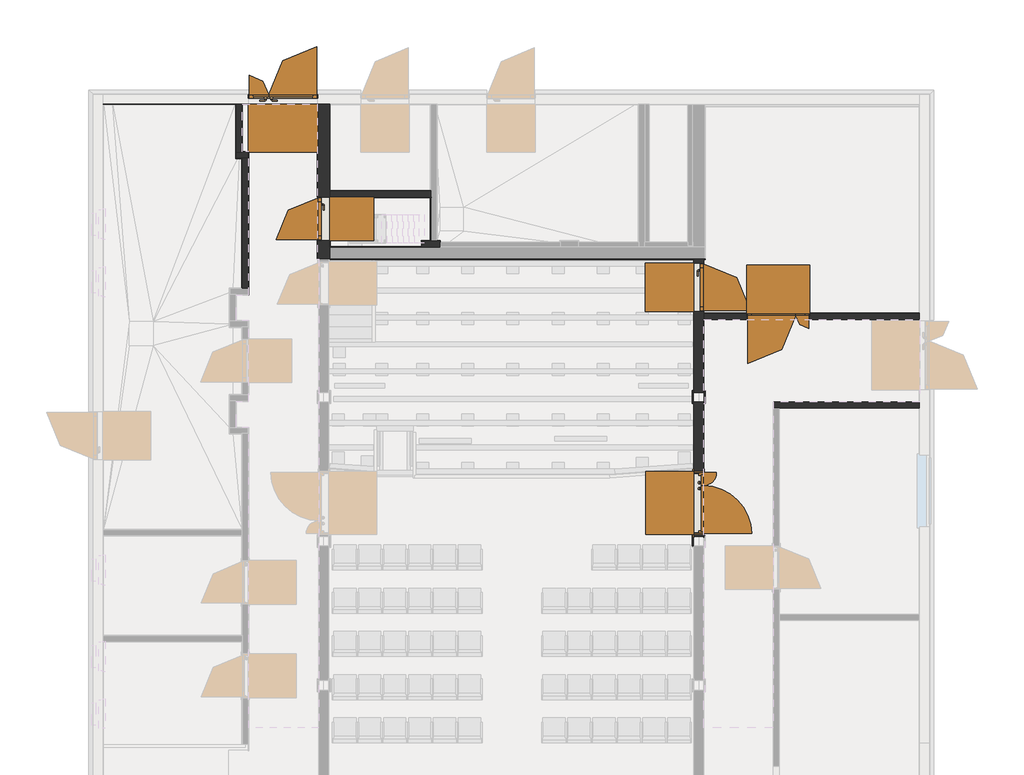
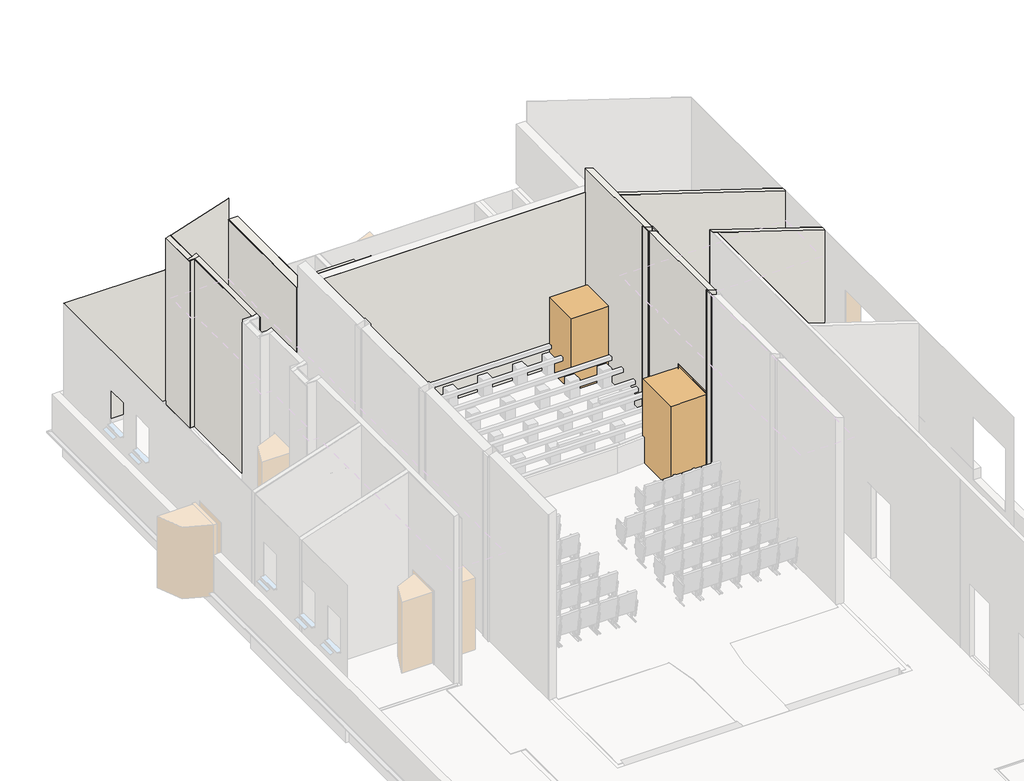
# One storey, part 8 of 12: 57 walls, 5 doors.
"""IFC4 building model written with IfcOpenShell, lengths in millimetres."""

from ifc_helpers import new_model, si_unit, frame, origin, origin_with_axes, place, context, project, spatial, polyline, outline, extrude, faceted_brep, transform, mapped, element, save
from components import door_54bb3564, door_66c45f72, door_7db46ef5, door_10c92136, door_b498f91c

model = new_model("IFC4")

# Units and contexts
model_context = context("Model", 3, world=origin())
ifc_project = project(units=[si_unit("LENGTHUNIT", "METRE", prefix="MILLI")], contexts=[model_context])

# Site, building, storey
site = spatial("IfcSite", under=ifc_project)
building = spatial("IfcBuilding", under=site)
storey = spatial("IfcBuildingStorey", under=building, Name="Этаж 01", Elevation=0.0)

# Doors
placement = place(None, origin())
door_shape = door_54bb3564(model_context)
element("IfcDoor", 1, ObjectType="Дверь_Стальная_Наружная_Двупольная_ГОСТ_31173-2016 : 1410 х 2070(h)_Л_Обычная_с Порогом", at=placement, inside=storey, context=model_context, shape_type="MappedRepresentation", body=[
    mapped(door_shape, transform((3649.9972865, 27200.0, 0.0), x_axis=(1.0, 0.0, 0.0), y_axis=(0.0, 1.0, 0.0), z_axis=(0.0, 0.0, 1.0))),
])
door_2_shape = door_66c45f72(model_context)
element("IfcDoor", 2, ObjectType="Дверь_Противопожарная_Металлическая_Однопольная_Глухая : 1000 х 2100(h)_Л_EI30", at=placement, inside=storey, context=model_context, shape_type="MappedRepresentation", body=[
    mapped(door_2_shape, transform((12300.0, 23290.0, 0.0), x_axis=(0.0, -1.0, 0.0), y_axis=(1.0, 0.0, 0.0), z_axis=(0.0, 0.0, 1.0))),
])
door_3_shape = door_7db46ef5(model_context)
element("IfcDoor", 3, ObjectType="Дверь_Противопожарная_Металлическая_Однопольная_Глухая : 910 х 2100(h)_Пр_EI30", at=placement, inside=storey, context=model_context, shape_type="MappedRepresentation", body=[
    mapped(door_3_shape, transform((4500.0, 24710.0, 0.0), x_axis=(0.0, 1.0, 0.0), y_axis=(-1.0, 0.0, 0.0), z_axis=(0.0, 0.0, 1.0))),
])
door_4_shape = door_10c92136(model_context)
element("IfcDoor", 4, ObjectType="Дверь_Противопожарная_Внутренняя_Двупольная_с_Порогом : 1310 х 2070(h)_Л_EI30", at=placement, inside=storey, context=model_context, shape_type="MappedRepresentation", body=[
    mapped(door_4_shape, transform((13955.0030762, 22682.5, 0.0), x_axis=(-1.0, 0.0, 0.0), y_axis=(0.0, -1.0, 0.0), z_axis=(0.0, 0.0, 1.0))),
])
door_5_shape = door_b498f91c(model_context)
element("IfcDoor", 5, ObjectType="Дверь_Деревянная_Внутренняя_Двупольная_ГОСТ_475-2016 : 1310 х 2370(h)_Л_с Порогом", at=placement, inside=storey, context=model_context, shape_type="MappedRepresentation", body=[
    mapped(door_5_shape, transform((12694.0, 18782.3933893, 0.0), x_axis=(0.0, 1.0, 0.0), y_axis=(-1.0, 0.0, 0.0), z_axis=(0.0, 0.0, 1.0))),
])

# Walls
element("IfcWall", 6, ObjectType="ADSK_Внутренняя_Кирпич_250", at=placement, inside=storey, context=model_context, shape_type="Brep", body=[
    faceted_brep([(4375.0, 26955.0, -1050.0), (4375.0, 23875.0, -1050.0), (4375.0, 23875.0, -627.0), (4375.0, 23875.0, -20.0), (4375.0, 23875.0, 0.0), (4375.0, 23875.0, 4695.0), (4375.0, 27099.0, 4695.0), (4375.0, 27100.0, 4695.0), (4375.0, 27100.0, 100.0), (4375.0, 27085.0, 100.0), (4375.0, 27085.0, -20.0), (4375.0, 27085.0, -25.0), (4375.0, 26955.0, -25.0), (4375.0, 26955.0, -627.0), (4375.0, 25165.0, 2100.0), (4375.0, 24255.0, 2100.0), (4375.0, 24255.0, 0.0), (4375.0, 25165.0, 0.0), (4625.0, 23875.0, -1050.0), (4625.0, 24125.0, -1050.0), (4625.0, 26955.0, -1050.0), (4625.0, 26955.0, -540.0), (4625.0, 26955.0, -25.0), (4625.0, 27085.0, -25.0), (4625.0, 27085.0, 0.0), (4625.0, 27085.0, 100.0), (4625.0, 27100.0, 100.0), (4625.0, 27100.0, 2840.0), (4625.0, 25284.648381, 2840.0), (4625.0, 25164.648381, 2840.0), (4625.0, 25164.648381, 3000.0), (4625.0, 25284.648381, 3000.0), (4625.0, 25294.648381, 3000.0), (4625.0, 27100.0, 3000.0), (4625.0, 27100.0, 4695.0), (4625.0, 24135.0, 4695.0), (4625.0, 24125.0, 4695.0), (4625.0, 23875.0, 4695.0), (4625.0, 24255.0, 2100.0), (4625.0, 25165.0, 2100.0), (4625.0, 25165.0, 0.0), (4625.0, 25164.648381, 0.0), (4625.0, 24255.0, 0.0), (4500.0, 27100.0, 2840.0), (4500.0, 25164.648381, 2840.0), (4500.0, 25164.648381, 3000.0), (4500.0, 27100.0, 3000.0), (4500.0, 26955.0, -25.0), (4500.0, 27085.0, -25.0)], [[[0, 1, 2, 3, 4, 5, 6, 7, 8, 9, 10, 11, 12, 13], [14, 15, 16, 17]], [[18, 19, 20, 21, 22, 23, 24, 25, 26, 27, 28, 29, 30, 31, 32, 33, 34, 35, 36, 37], [38, 39, 40, 41, 42]], [[1, 0, 20, 19, 18]], [[7, 6, 5, 37, 36, 35, 34]], [[14, 39, 38, 15]], [[16, 42, 41, 40, 17]], [[42, 16, 15, 38]], [[17, 40, 39, 14]], [[43, 44, 29, 28, 27]], [[45, 46, 33, 32, 31, 30]], [[44, 43, 46, 45]], [[44, 45, 30, 29]], [[23, 22, 47, 12, 11, 48]], [[0, 13, 12, 47, 22, 21, 20]], [[26, 25, 9, 8]], [[23, 48, 11, 10, 9, 25, 24]], [[7, 34, 33, 46, 43, 27, 26, 8]], [[37, 5, 4, 3, 2, 1, 18]]]),
])
element("IfcWall", 7, ObjectType="ADSK_Внутренняя_Кирпич_120", at=placement, inside=storey, context=model_context, shape_type="Brep", body=[
    faceted_brep([(2925.2572865, 23259.9176524, -25.0), (2925.2572865, 25979.9955786, -25.0), (2925.2572865, 25979.9955786, -20.0), (2925.2572865, 25979.9955786, 4831.1056928), (2925.2572865, 23259.9176524, 4831.1056928), (2925.2572865, 23259.9176524, -20.0), (2805.2572865, 23259.9176524, -25.0), (2805.2572865, 23259.9176524, -20.0), (2805.2572865, 23259.9176524, 4792.1143962), (2805.2572865, 25979.9955786, 4792.1143962), (2805.2572865, 25979.9955786, -20.0), (2805.2572865, 25979.9955786, -25.0), (2865.2572865, 23259.9176524, -25.0), (2865.2572865, 25979.9955786, -25.0)], [[[0, 1, 2, 3, 4, 5]], [[6, 7, 8, 9, 10, 11]], [[1, 0, 12, 6, 11, 13]], [[0, 5, 4, 8, 7, 6, 12]], [[3, 2, 1, 13, 11, 10, 9]], [[4, 3, 9, 8]]]),
])
element("IfcWall", 8, ObjectType="ADSK_Внутренняя_Кирпич_120", at=placement, inside=storey, context=model_context, shape_type="Brep", body=[
    faceted_brep([(2675.2572865, 27085.0, -25.0), (2675.2572865, 26955.0, -25.0), (2675.2572865, 26099.9955786, -25.0), (2675.2572865, 26099.9955786, -20.7585152), (2675.2572865, 26099.9955786, 4749.8738249), (2675.2572865, 27100.0, 4749.8738249), (2675.2572865, 27100.0, 100.0), (2675.2572865, 27085.0, 100.0), (2675.2572865, 27085.0, -20.3036368), (2795.2572865, 27085.0, 100.0), (2795.2572865, 27100.0, 100.0), (2795.2572865, 27100.0, 4788.8651214), (2795.2572865, 26099.9955786, 4788.8651214), (2795.2572865, 26099.9955786, -20.0), (2795.2572865, 27085.0, -20.0), (2735.2572865, 27085.0, -25.0), (2735.2572865, 26955.0, -25.0), (2735.2572865, 26099.9955786, -25.0), (2735.2572865, 26099.9955786, -20.0), (2735.2572865, 27085.0, -20.0)], [[[0, 1, 2, 3, 4, 5, 6, 7, 8]], [[9, 10, 11, 12, 13, 14]], [[2, 1, 0, 15, 16, 17]], [[4, 3, 2, 17, 18, 13, 12]], [[10, 9, 7, 6]], [[0, 8, 7, 9, 14, 19, 15]], [[5, 4, 12, 11]], [[10, 6, 5, 11]], [[14, 13, 18, 19]], [[19, 18, 17, 16, 15]]]),
])
element("IfcWall", 9, ObjectType="ADSK_Внутренняя_Кирпич_120", at=placement, inside=storey, context=model_context, shape_type="Brep", body=[
    faceted_brep([(2675.2572865, 26099.9955786, 4749.8738249), (2795.2572865, 26099.9955786, 4788.8651214), (2925.2572865, 26099.9955786, 4831.1056928), (2925.2572865, 26099.9955786, -20.0), (2795.2572865, 26099.9955786, -20.0), (2735.2572865, 26099.9955786, -20.0), (2735.2572865, 26099.9955786, -25.0), (2675.2572865, 26099.9955786, -25.0), (2925.2572865, 25979.9955786, 4831.1056928), (2805.2572865, 25979.9955786, 4792.1143962), (2675.2572865, 25979.9955786, 4749.8738249), (2675.2572865, 25979.9955786, -25.0), (2805.2572865, 25979.9955786, -25.0), (2865.2572865, 25979.9955786, -25.0), (2865.2572865, 25979.9955786, -20.0), (2925.2572865, 25979.9955786, -20.0), (2735.2572865, 26039.9955786, -25.0), (2865.2572865, 26039.9955786, -25.0), (2865.2572865, 26039.9955786, -20.0), (2735.2572865, 26039.9955786, -20.0)], [[[0, 1, 2, 3, 4, 5, 6, 7]], [[8, 9, 10, 11, 12, 13, 14, 15]], [[11, 7, 6, 16, 17, 13, 12]], [[2, 8, 15, 3]], [[2, 1, 0, 10, 9, 8]], [[18, 19, 5, 4, 3, 15, 14]], [[18, 14, 13, 17]], [[19, 18, 17, 16]], [[5, 19, 16, 6]], [[7, 11, 10, 0]]]),
])
element("IfcWall", 10, ObjectType="Перегородка-КНАУФ-С362-Применение внутри здания-125/75@600 ГВЛ(ГВЛВ)  12,5", at=placement, inside=storey, context=model_context, shape_type="Brep", body=[
    faceted_brep([(16885.0, 22745.0, -20.0), (12405.0, 22745.0, -20.0), (12405.0, 22745.0, 5308.6654765), (12406.0, 22745.0, 5308.340549), (16900.0, 22745.0, 3848.1164919), (16900.0, 22745.0, 100.0), (16885.0, 22745.0, 100.0), (14610.0030762, 22745.0, 2070.0), (13300.0030762, 22745.0, 2070.0), (13300.0030762, 22745.0, 0.0), (14610.0030762, 22745.0, 0.0), (12405.0, 22620.0, -20.0), (16885.0, 22620.0, -20.0), (16885.0, 22620.0, 100.0), (16900.0, 22620.0, 100.0), (16900.0, 22620.0, 3848.1164919), (12405.0, 22620.0, 5308.6654765), (12405.0, 22620.0, 0.0), (13300.0030762, 22620.0, 2070.0), (14610.0030762, 22620.0, 2070.0), (14610.0030762, 22620.0, 0.0), (13300.0030762, 22620.0, 0.0)], [[[0, 1, 2, 3, 4, 5, 6], [7, 8, 9, 10]], [[11, 12, 13, 14, 15, 16, 17], [18, 19, 20, 21]], [[1, 0, 12, 11]], [[7, 19, 18, 8]], [[20, 10, 9, 21]], [[10, 20, 19, 7]], [[21, 9, 8, 18]], [[12, 0, 6, 13]], [[4, 3, 2, 16, 15]], [[2, 1, 11, 17, 16]], [[4, 15, 14, 5]], [[14, 13, 6, 5]]]),
])
element("IfcWall", 11, ObjectType="Перегородка-КНАУФ-С362-Применение внутри здания-125/75@600 ГВЛ(ГВЛВ)  12,5", at=placement, inside=storey, context=model_context, shape_type="Brep", body=[
    faceted_brep([(16885.0, 20900.5, -20.0), (13855.0, 20900.5, -20.0), (13855.0, 20900.5, 4837.5206427), (16900.0, 20900.5, 3848.1164919), (16900.0, 20900.5, 100.0), (16885.0, 20900.5, 100.0), (13855.0, 20775.5, 4837.5206427), (13855.0, 20775.5, -20.0), (13917.5, 20775.5, -20.0), (13917.5, 20775.5, -3.0), (13980.0, 20775.5, -3.0), (16885.0, 20775.5, -3.0), (16885.0, 20775.5, 100.0), (16899.0, 20775.5, 100.0), (16900.0, 20775.5, 100.0), (16900.0, 20775.5, 3848.1164919), (13980.0, 20775.5, 4796.9047088), (16885.0, 20838.0, -20.0), (13917.5, 20838.0, -20.0), (16885.0, 20838.0, -3.0), (13917.5, 20838.0, -3.0)], [[[0, 1, 2, 3, 4, 5]], [[6, 7, 8, 9, 10, 11, 12, 13, 14, 15, 16]], [[1, 0, 17, 18, 8, 7]], [[2, 1, 7, 6]], [[0, 5, 12, 11, 19, 17]], [[3, 2, 6, 16, 15]], [[20, 19, 11, 10, 9]], [[20, 9, 8, 18]], [[19, 20, 18, 17]], [[3, 15, 14, 4]], [[14, 13, 12, 5, 4]]]),
])
element("IfcWall", 12, ObjectType="Перегородка-КНАУФ-С365-Применение внутри здания-200/75@600 ГВЛ(ГВЛВ)  12,5", at=placement, inside=storey, context=model_context, shape_type="Brep", body=[
    faceted_brep([(12195.0, 23875.0, -20.0), (12195.0, 21100.0, -20.0), (12195.0, 21100.0, 5376.9002455), (12195.0, 21133.5, 5376.9002455), (12195.0, 23874.0, 5376.9002455), (12195.0, 23875.0, 5376.9002455), (12195.0, 23875.0, 4695.0), (12195.0, 23875.0, 0.0), (12195.0, 23795.0, 2100.0), (12195.0, 22785.0, 2100.0), (12195.0, 22785.0, 0.0), (12195.0, 23795.0, 0.0), (12405.0, 21100.0, -20.0), (12405.0, 22620.0, -20.0), (12405.0, 22745.0, -20.0), (12405.0, 23875.0, -20.0), (12405.0, 23875.0, 5308.6654765), (12405.0, 23865.0, 5308.6654765), (12405.0, 22745.0, 5308.6654765), (12405.0, 22620.0, 5308.6654765), (12405.0, 21100.0, 5308.6654765), (12405.0, 22785.0, 2100.0), (12405.0, 23795.0, 2100.0), (12405.0, 23795.0, 0.0), (12405.0, 22785.0, 0.0)], [[[0, 1, 2, 3, 4, 5, 6, 7], [8, 9, 10, 11]], [[12, 13, 14, 15, 16, 17, 18, 19, 20], [21, 22, 23, 24]], [[1, 0, 15, 14, 13, 12]], [[2, 1, 12, 20]], [[0, 7, 6, 5, 16, 15]], [[21, 9, 8, 22]], [[23, 11, 10, 24]], [[22, 8, 11, 23]], [[9, 21, 24, 10]], [[5, 4, 3, 2, 20, 19, 18, 17, 16]]]),
])
element("IfcWall", 13, ObjectType="ADSK_Внутренняя_Кирпич_120", at=placement, inside=storey, context=model_context, shape_type="Brep", body=[
    faceted_brep([(4625.0, 25164.648381, -25.0), (6724.9988121, 25164.648381, -25.0), (6724.9988121, 25164.648381, 0.0), (6724.9988121, 25164.648381, 2840.0), (6724.9988121, 25164.648381, 3000.0), (6724.9988121, 25164.648381, 3825.0), (4625.0, 25164.648381, 3825.0), (4625.0, 25164.648381, 3000.0), (4625.0, 25164.648381, 2840.0), (4625.0, 25164.648381, 0.0), (4625.0, 25284.648381, -25.0), (4625.0, 25284.648381, 0.0), (4625.0, 25284.648381, 2840.0), (4625.0, 25284.648381, 3000.0), (4625.0, 25284.648381, 3825.0), (6724.9988121, 25284.648381, 3825.0), (6724.9988121, 25284.648381, 3000.0), (6724.9988121, 25284.648381, 2840.0), (6724.9988121, 25284.648381, 0.0), (6724.9988121, 25284.648381, -25.0)], [[[0, 1, 2, 3, 4, 5, 6, 7, 8, 9]], [[10, 11, 12, 13, 14, 15, 16, 17, 18, 19]], [[1, 0, 10, 19]], [[6, 5, 15, 14]], [[0, 9, 8, 7, 6, 14, 13, 12, 11, 10]], [[5, 4, 3, 2, 1, 19, 18, 17, 16, 15]]]),
])
element("IfcWall", 14, ObjectType="ADSK_Внутренняя_Кирпич_120", at=placement, inside=storey, context=model_context, shape_type="Brep", body=[
    faceted_brep([(6534.9369238, 24125.0, -25.0), (6914.9369238, 24125.0, -25.0), (6914.9369238, 24125.0, 2840.0), (6534.9369238, 24125.0, 2840.0), (6534.9369238, 24245.0, -25.0), (6534.9369238, 24245.0, 2840.0), (6715.0630762, 24245.0, 2840.0), (6724.9988121, 24245.0, 2840.0), (6844.9988121, 24245.0, 2840.0), (6854.9988121, 24245.0, 2840.0), (6914.9369238, 24245.0, 2840.0), (6914.9369238, 24245.0, -25.0), (6844.9988121, 24245.0, -25.0), (6724.9988121, 24245.0, -25.0)], [[[0, 1, 2, 3]], [[4, 5, 6, 7, 8, 9, 10, 11, 12, 13]], [[1, 0, 4, 13, 12, 11]], [[2, 1, 11, 10]], [[3, 2, 10, 9, 8, 7, 6, 5]], [[0, 3, 5, 4]]]),
])
element("IfcWall", 15, ObjectType="Перегородка-КНАУФ-С365-Применение внутри здания-200/75@600 ГВЛ(ГВЛВ)  12,5", at=placement, inside=storey, context=model_context, shape_type="Brep", body=[
    faceted_brep([(12195.0, 20900.0, -20.0), (12195.0, 18100.0, -20.0), (12195.0, 18100.0, 5376.9002455), (12195.0, 18132.0, 5376.9002455), (12195.0, 20867.5, 5376.9002455), (12195.0, 20900.0, 5376.9002455), (12195.0, 19447.3933893, 0.0), (12195.0, 19447.3933893, 2370.0), (12195.0, 18137.3933893, 2370.0), (12195.0, 18137.3933893, 0.0), (12405.0, 18100.0, -20.0), (12405.0, 20900.0, -20.0), (12405.0, 20900.0, 5308.6654765), (12405.0, 20866.5, 5308.6654765), (12405.0, 18132.0, 5308.6654765), (12405.0, 18100.0, 5308.6654765), (12405.0, 19447.3933893, 2370.0), (12405.0, 19447.3933893, 0.0), (12405.0, 18137.3933893, 0.0), (12405.0, 18137.3933893, 2370.0)], [[[0, 1, 2, 3, 4, 5], [6, 7, 8, 9]], [[10, 11, 12, 13, 14, 15], [16, 17, 18, 19]], [[1, 0, 11, 10]], [[2, 1, 10, 15]], [[0, 5, 12, 11]], [[6, 17, 16, 7]], [[7, 16, 19, 8]], [[8, 19, 18, 9]], [[17, 6, 9, 18]], [[5, 4, 3, 2, 15, 14, 13, 12]]]),
])
element("IfcWall", 16, ObjectType="Отделка - Заводское покрытие сэндвич-панелей", at=placement, inside=storey, context=model_context, shape_type="Brep", body=[
    faceted_brep([(2675.2572865, 27100.0, 100.0), (-99.0, 27100.0, 100.0), (-99.0, 27100.0, 3848.4414193), (-99.0, 27100.0, 3850.0), (2675.2572865, 27100.0, 3850.0), (2675.2572865, 27099.0, 100.0), (2675.2572865, 27099.0, 3850.0), (-99.0, 27099.0, 3850.0), (-99.0, 27099.0, 100.0)], [[[0, 1, 2, 3, 4]], [[5, 6, 7, 8]], [[1, 0, 5, 8]], [[4, 3, 7, 6]], [[3, 2, 1, 8, 7]], [[0, 4, 6, 5]]]),
])
element("IfcWall", 17, ObjectType="Отделка - Акриловая покраска_1 мм_Улучш. штук. по кирп._9 мм", at=placement, inside=storey, context=model_context, shape_type="Brep", body=[
    faceted_brep([(2805.2572865, 23259.9176524, 0.0), (2805.2572865, 25979.9955786, 0.0), (2805.2572865, 25979.9955786, 4792.1143962), (2805.2572865, 23259.9176524, 4792.1143962), (2795.2572865, 23259.9176524, 0.0), (2795.2572865, 23259.9176524, 4788.8651214), (2795.2572865, 25979.9955786, 4788.8651214), (2795.2572865, 25979.9955786, 0.0), (2795.2572865, 25969.9955786, 0.0), (2795.2572865, 23269.9176524, 0.0)], [[[0, 1, 2, 3]], [[4, 5, 6, 7, 8, 9]], [[1, 0, 4, 9, 8, 7]], [[3, 2, 6, 5]], [[2, 1, 7, 6]], [[0, 3, 5, 4]]]),
])
element("IfcWall", 18, ObjectType="Отделка - Акриловая покраска_1 мм_Улучш. штук. по кирп._9 мм", at=placement, inside=storey, context=model_context, shape_type="Brep", body=[
    faceted_brep([(2675.2572865, 25969.9955786, 0.0), (2675.2572865, 25979.9955786, 0.0), (2675.2572865, 27099.0, 0.0), (2675.2572865, 27099.0, 100.0), (2675.2572865, 27099.0, 3850.0), (2675.2572865, 27099.0, 4749.8738249), (2675.2572865, 25969.9955786, 4749.8738249), (2665.2572865, 25969.9955786, 0.0), (2665.2572865, 25969.9955786, 4746.6245501), (2665.2572865, 27099.0, 4746.6245501), (2665.2572865, 27099.0, 0.0)], [[[0, 1, 2, 3, 4, 5, 6]], [[7, 8, 9, 10]], [[2, 1, 0, 7, 10]], [[6, 5, 9, 8]], [[5, 4, 3, 2, 10, 9]], [[0, 6, 8, 7]]]),
])
element("IfcWall", 19, ObjectType="Отделка - Акриловая покраска_1 мм_Улучш. штук. по кирп._9 мм", at=placement, inside=storey, context=model_context, shape_type="Brep", body=[
    faceted_brep([(2795.2572865, 25979.9955786, 0.0), (2675.2572865, 25979.9955786, 0.0), (2675.2572865, 25979.9955786, 4792.1143962), (2795.2572865, 25979.9955786, 4792.1143962), (2795.2572865, 25979.9955786, 4788.8651214), (2795.2572865, 25969.9955786, 0.0), (2795.2572865, 25969.9955786, 4792.1143962), (2675.2572865, 25969.9955786, 4792.1143962), (2675.2572865, 25969.9955786, 4749.8738249), (2675.2572865, 25969.9955786, 0.0)], [[[0, 1, 2, 3, 4]], [[5, 6, 7, 8, 9]], [[1, 0, 5, 9]], [[3, 2, 7, 6]], [[0, 4, 3, 6, 5]], [[2, 1, 9, 8, 7]]]),
])
element("IfcWall", 20, ObjectType="Отделка - Акриловая покраска_1 мм_Улучш. штук. по кирп._9 мм", at=placement, inside=storey, context=model_context, shape_type="Brep", body=[
    faceted_brep([(2935.2572865, 23129.9176524, 0.0), (2935.2572865, 26109.9955786, 0.0), (2935.2572865, 26109.9955786, 4792.1143962), (2935.2572865, 23129.9176524, 4792.1143962), (2925.2572865, 23129.9176524, 0.0), (2925.2572865, 23129.9176524, 4792.1143962), (2925.2572865, 23139.9176524, 4792.1143962), (2925.2572865, 26099.9955786, 4792.1143962), (2925.2572865, 26109.9955786, 4792.1143962), (2925.2572865, 26109.9955786, 0.0), (2925.2572865, 26099.9955786, 0.0), (2925.2572865, 23139.9176524, 0.0)], [[[0, 1, 2, 3]], [[4, 5, 6, 7, 8, 9, 10, 11]], [[1, 0, 4, 11, 10, 9]], [[3, 2, 8, 7, 6, 5]], [[0, 3, 5, 4]], [[2, 1, 9, 8]]]),
])
element("IfcWall", 21, ObjectType="Отделка - Акриловая покраска_1 мм_Улучш. штук. по кирп._9 мм", at=placement, inside=storey, context=model_context, shape_type="Brep", body=[
    faceted_brep([(2805.2572865, 26099.9955786, 0.0), (2805.2572865, 26109.9955786, 0.0), (2805.2572865, 27100.0, 0.0), (2805.2572865, 27100.0, 100.0), (2805.2572865, 27100.0, 4792.1143962), (2805.2572865, 26109.9955786, 4792.1143962), (2805.2572865, 26099.9955786, 4792.1143962), (2795.2572865, 26099.9955786, 0.0), (2795.2572865, 26099.9955786, 4792.1143962), (2795.2572865, 27100.0, 4792.1143962), (2795.2572865, 27100.0, 0.0)], [[[0, 1, 2, 3, 4, 5, 6]], [[7, 8, 9, 10]], [[2, 1, 0, 7, 10]], [[6, 5, 4, 9, 8]], [[4, 3, 2, 10, 9]], [[0, 6, 8, 7]]]),
])
element("IfcWall", 22, ObjectType="Отделка - Акриловая покраска_1 мм_Улучш. штук. по кирп._9 мм", at=placement, inside=storey, context=model_context, shape_type="SweptSolid", body=[
    extrude(outline(polyline([(2925.2572865, 26099.9955786), (2805.2572865, 26099.9955786), (2805.2572865, 26109.9955786), (2925.2572865, 26109.9955786), (2925.2572865, 26099.9955786)])), origin_with_axes(), (0.0, 0.0, 1.0), 4792.1143962),
])
element("IfcWall", 23, ObjectType="Отделка - Заводское покрытие сэндвич-панелей", at=placement, inside=storey, context=model_context, shape_type="Brep", body=[
    faceted_brep([(2805.2572865, 27100.0, 100.0), (2805.2572865, 27100.0, 4792.1143962), (4375.0, 27100.0, 5302.166927), (4375.0, 27100.0, 100.0), (4369.9972865, 27100.0, 100.0), (4369.9972865, 27100.0, 2082.0), (2929.9972865, 27100.0, 2082.0), (2929.9972865, 27100.0, 100.0), (2805.2572865, 27099.0, 4792.1143962), (2805.2572865, 27099.0, 100.0), (2929.9972865, 27099.0, 100.0), (2929.9972865, 27099.0, 2082.0), (4369.9972865, 27099.0, 2082.0), (4369.9972865, 27099.0, 100.0), (4375.0, 27099.0, 100.0), (4375.0, 27099.0, 4695.0), (4375.0, 27099.0, 5302.166927)], [[[0, 1, 2, 3, 4, 5, 6, 7]], [[8, 9, 10, 11, 12, 13, 14, 15, 16]], [[9, 0, 7, 10]], [[3, 14, 13, 4]], [[1, 0, 9, 8]], [[3, 2, 16, 15, 14]], [[11, 6, 5, 12]], [[6, 11, 10, 7]], [[12, 5, 4, 13]], [[2, 1, 8, 16]]]),
])
element("IfcWall", 24, ObjectType="Отделка - Акриловая покраска_1 мм_Улучш. штук. по кирп._9 мм", at=placement, inside=storey, context=model_context, shape_type="Brep", body=[
    faceted_brep([(4375.0, 27099.0, 4695.0), (4375.0, 23875.0, 4695.0), (4375.0, 23875.0, 0.0), (4375.0, 24255.0, 0.0), (4375.0, 24255.0, 2100.0), (4375.0, 25165.0, 2100.0), (4375.0, 25165.0, 0.0), (4375.0, 27099.0, 0.0), (4375.0, 27099.0, 100.0), (4365.0, 23875.0, 4695.0), (4365.0, 27099.0, 4695.0), (4365.0, 27099.0, 0.0), (4365.0, 25165.0, 0.0), (4365.0, 25165.0, 2100.0), (4365.0, 24255.0, 2100.0), (4365.0, 24255.0, 0.0), (4365.0, 23875.0, 0.0)], [[[0, 1, 2, 3, 4, 5, 6, 7, 8]], [[9, 10, 11, 12, 13, 14, 15, 16]], [[11, 7, 6, 12]], [[2, 16, 15, 3]], [[1, 0, 10, 9]], [[0, 8, 7, 11, 10]], [[13, 5, 4, 14]], [[14, 4, 3, 15]], [[5, 13, 12, 6]], [[2, 1, 9, 16]]]),
])
element("IfcWall", 25, ObjectType="Отделка - Акриловая покраска_1 мм_Улучш. штук. по кирп._9 мм", at=placement, inside=storey, context=model_context, shape_type="Brep", body=[
    faceted_brep([(4635.0, 25284.648381, 0.0), (6724.9988121, 25284.648381, 0.0), (6724.9988121, 25284.648381, 2840.0), (4635.0, 25284.648381, 2840.0), (4635.0, 25294.648381, 0.0), (4635.0, 25294.648381, 2840.0), (6714.9988121, 25294.648381, 2840.0), (6724.9988121, 25294.648381, 2840.0), (6724.9988121, 25294.648381, 0.0), (6714.9988121, 25294.648381, 0.0)], [[[0, 1, 2, 3]], [[4, 5, 6, 7, 8, 9]], [[1, 0, 4, 9, 8]], [[3, 2, 7, 6, 5]], [[2, 1, 8, 7]], [[0, 3, 5, 4]]]),
])
element("IfcWall", 26, ObjectType="Отделка - Акриловая покраска_1 мм_Улучш. штук. по кирп._9 мм", at=placement, inside=storey, context=model_context, shape_type="SweptSolid", body=[
    extrude(outline(polyline([(6914.9369238, 24245.0), (6854.9988121, 24245.0), (6854.9988121, 24255.0), (6914.9369238, 24255.0), (6914.9369238, 24245.0)])), origin_with_axes(), (0.0, 0.0, 1.0), 2840.0),
])
element("IfcWall", 27, ObjectType="Отделка - Акриловая покраска_1 мм_Улучш. штук. по кирп._9 мм", at=placement, inside=storey, context=model_context, shape_type="Brep", body=[
    faceted_brep([(6914.9369238, 24255.0, 0.0), (6914.9369238, 24245.0, 0.0), (6914.9369238, 24226.0, 0.0), (6914.9369238, 24226.0, 2840.0), (6914.9369238, 24245.0, 2840.0), (6914.9369238, 24255.0, 2840.0), (6924.9369238, 24255.0, 0.0), (6924.9369238, 24255.0, 2840.0), (6924.9369238, 24226.0, 2840.0), (6924.9369238, 24226.0, 0.0)], [[[0, 1, 2, 3, 4, 5]], [[6, 7, 8, 9]], [[2, 1, 0, 6, 9]], [[5, 4, 3, 8, 7]], [[0, 5, 7, 6]], [[3, 2, 9, 8]]]),
])
element("IfcWall", 28, ObjectType="Отделка - Акриловая покраска_1 мм_Улучш. штук. по кирп._9 мм", at=placement, inside=storey, context=model_context, shape_type="Brep", body=[
    faceted_brep([(12435.0, 23875.0, 0.0), (12425.0, 23875.0, 0.0), (12405.0, 23875.0, 0.0), (12405.0, 23875.0, 2840.0), (12435.0, 23875.0, 2840.0), (12435.0, 23865.0, 0.0), (12435.0, 23865.0, 2840.0), (12405.0, 23865.0, 2840.0), (12405.0, 23865.0, 0.0), (12406.0, 23865.0, 0.0)], [[[0, 1, 2, 3, 4]], [[5, 6, 7, 8, 9]], [[2, 1, 0, 5, 9, 8]], [[4, 3, 7, 6]], [[0, 4, 6, 5]], [[3, 2, 8, 7]]]),
])
element("IfcWall", 29, ObjectType="Отделка - Акриловая покраска по Кнауф-суперлистам_1 мм", at=placement, inside=storey, context=model_context, shape_type="Brep", body=[
    faceted_brep([(12405.0, 22745.0, 0.0), (12405.0, 22745.0, 5308.6654765), (12405.0, 23865.0, 5308.6654765), (12405.0, 23865.0, 2840.0), (12405.0, 23865.0, 0.0), (12405.0, 23795.0, 0.0), (12405.0, 23795.0, 2100.0), (12405.0, 22785.0, 2100.0), (12405.0, 22785.0, 0.0), (12406.0, 22745.0, 5308.340549), (12406.0, 22745.0, 0.0), (12406.0, 22746.0, 0.0), (12406.0, 22785.0, 0.0), (12406.0, 22785.0, 2100.0), (12406.0, 23795.0, 2100.0), (12406.0, 23795.0, 0.0), (12406.0, 23865.0, 0.0), (12406.0, 23865.0, 5308.340549), (12406.0, 22746.0, 5308.340549)], [[[0, 1, 2, 3, 4, 5, 6, 7, 8]], [[9, 10, 11, 12, 13, 14, 15, 16, 17, 18]], [[10, 0, 8, 12, 11]], [[4, 16, 15, 5]], [[1, 0, 10, 9]], [[13, 7, 6, 14]], [[14, 6, 5, 15]], [[7, 13, 12, 8]], [[4, 3, 2, 17, 16]], [[2, 1, 9, 18, 17]]]),
])
element("IfcWall", 30, ObjectType="Отделка - Акриловая покраска по Кнауф-суперлистам_1 мм", at=placement, inside=storey, context=model_context, shape_type="Brep", body=[
    faceted_brep([(12406.0, 22745.0, 5308.340549), (12406.0, 22745.0, 0.0), (13300.0030762, 22745.0, 0.0), (13300.0030762, 22745.0, 2070.0), (14610.0030762, 22745.0, 2070.0), (14610.0030762, 22745.0, 0.0), (16900.0, 22745.0, 0.0), (16900.0, 22745.0, 100.0), (16900.0, 22745.0, 3848.1164919), (12406.0, 22746.0, 0.0), (12406.0, 22746.0, 5308.340549), (16900.0, 22746.0, 3848.1164919), (16900.0, 22746.0, 100.0), (16900.0, 22746.0, 0.0), (14610.0030762, 22746.0, 0.0), (14610.0030762, 22746.0, 2070.0), (13300.0030762, 22746.0, 2070.0), (13300.0030762, 22746.0, 0.0)], [[[0, 1, 2, 3, 4, 5, 6, 7, 8]], [[9, 10, 11, 12, 13, 14, 15, 16, 17]], [[1, 9, 17, 2]], [[13, 6, 5, 14]], [[1, 0, 10, 9]], [[8, 7, 6, 13, 12, 11]], [[0, 8, 11, 10]], [[15, 4, 3, 16]], [[4, 15, 14, 5]], [[16, 3, 2, 17]]]),
])
element("IfcWall", 31, ObjectType="Отделка - Акриловая покраска по Кнауф-суперлистам_1 мм", at=placement, inside=storey, context=model_context, shape_type="Brep", body=[
    faceted_brep([(16885.0, 20775.5, 0.0), (13980.0, 20775.5, 0.0), (13980.0, 20775.5, 4796.9047088), (16900.0, 20775.5, 3848.1164919), (16900.0, 20775.5, 100.0), (16885.0, 20775.5, 100.0), (16885.0, 20774.5, 0.0), (16885.0, 20774.5, 100.0), (16900.0, 20774.5, 100.0), (16900.0, 20774.5, 3848.1164919), (13981.0, 20774.5, 4796.5797813), (13980.0, 20774.5, 4796.9047088), (13980.0, 20774.5, 0.0), (13981.0, 20774.5, 0.0)], [[[0, 1, 2, 3, 4, 5]], [[6, 7, 8, 9, 10, 11, 12, 13]], [[1, 0, 6, 13, 12]], [[4, 8, 7, 5]], [[0, 5, 7, 6]], [[3, 9, 8, 4]], [[3, 2, 11, 10, 9]], [[2, 1, 12, 11]]]),
])
element("IfcWall", 32, ObjectType="Отделка - Акриловая покраска по Кнауф-суперлистам_1 мм", at=placement, inside=storey, context=model_context, shape_type="Brep", body=[
    faceted_brep([(13980.0, 16474.9313142, 4796.9047088), (13980.0, 20774.5, 4796.9047088), (13980.0, 20774.5, 0.0), (13980.0, 17904.9313142, 0.0), (13980.0, 17904.9313142, 2070.0), (13980.0, 16994.9313142, 2070.0), (13980.0, 16994.9313142, 0.0), (13980.0, 16474.9313142, 0.0), (13981.0, 20774.5, 4796.5797813), (13981.0, 16475.9313142, 4796.5797813), (13981.0, 16474.9313142, 4796.5797813), (13981.0, 16474.9313142, 0.0), (13981.0, 16475.9313142, 0.0), (13981.0, 16994.9313142, 0.0), (13981.0, 16994.9313142, 2070.0), (13981.0, 17904.9313142, 2070.0), (13981.0, 17904.9313142, 0.0), (13981.0, 20774.5, 0.0)], [[[0, 1, 2, 3, 4, 5, 6, 7]], [[8, 9, 10, 11, 12, 13, 14, 15, 16, 17]], [[11, 7, 6, 13, 12]], [[2, 17, 16, 3]], [[5, 14, 13, 6]], [[14, 5, 4, 15]], [[15, 4, 3, 16]], [[1, 0, 10, 9, 8]], [[0, 7, 11, 10]], [[2, 1, 8, 17]]]),
])
element("IfcWall", 33, ObjectType="Отделка - Акриловая покраска_1 мм_Улучш. штук. по кирп._9 мм", at=placement, inside=storey, context=model_context, shape_type="Brep", body=[
    faceted_brep([(4625.0, 25164.648381, 0.0), (4625.0, 24125.0, 0.0), (4625.0, 24125.0, 4695.0), (4625.0, 25164.648381, 4695.0), (4625.0, 25164.648381, 3825.0), (4635.0, 25164.648381, 0.0), (4635.0, 25164.648381, 3825.0), (4635.0, 25164.648381, 4695.0), (4635.0, 24125.0, 4695.0), (4635.0, 24125.0, 0.0)], [[[0, 1, 2, 3, 4]], [[5, 6, 7, 8, 9]], [[1, 0, 5, 9]], [[3, 2, 8, 7]], [[2, 1, 9, 8]], [[0, 4, 3, 7, 6, 5]]]),
])
element("IfcWall", 34, ObjectType="Отделка - Акриловая покраска_1 мм_Улучш. штук. по кирп._9 мм", at=placement, inside=storey, context=model_context, shape_type="SweptSolid", body=[
    extrude(outline(polyline([(0.0, 4625.0), (0.0, 6524.9369238), (2840.0, 6524.9369238), (2840.0, 6529.9369238), (4695.0, 6529.9369238), (4695.0, 4625.0), (0.0, 4625.0)])), frame((0.0, 24125.0, 0.0), z_axis=(0.0, 1.0, 0.0), x_axis=(0.0, 0.0, 1.0)), (0.0, 0.0, 1.0), 10.0),
])
element("IfcWall", 35, ObjectType="Отделка - Акриловая покраска_1 мм_Улучш. штук. по кирп._9 мм", at=placement, inside=storey, context=model_context, shape_type="Brep", body=[
    faceted_brep([(6524.9369238, 24245.0, 0.0), (6534.9369238, 24245.0, 0.0), (6724.9988121, 24245.0, 0.0), (6724.9988121, 24245.0, 2840.0), (6675.0, 24245.0, 2840.0), (6534.9369238, 24245.0, 2840.0), (6524.9369238, 24245.0, 2840.0), (6524.9369238, 24255.0, 0.0), (6524.9369238, 24255.0, 2840.0), (6675.0, 24255.0, 2840.0), (6724.9988121, 24255.0, 2840.0), (6724.9988121, 24255.0, 0.0)], [[[0, 1, 2, 3, 4, 5, 6]], [[7, 8, 9, 10, 11]], [[2, 1, 0, 7, 11]], [[3, 2, 11, 10]], [[6, 5, 4, 9, 8]], [[4, 3, 10, 9]], [[0, 6, 8, 7]]]),
])
element("IfcWall", 36, ObjectType="Отделка - Акриловая покраска_1 мм_Улучш. штук. по кирп._9 мм", at=placement, inside=storey, context=model_context, shape_type="SweptSolid", body=[
    extrude(outline(polyline([(6725.0630762, 25164.648381), (6725.0630762, 24245.0), (6715.0630762, 24245.0), (6715.0630762, 25164.648381), (6725.0630762, 25164.648381)])), origin_with_axes(), (0.0, 0.0, 1.0), 2840.0),
])
element("IfcWall", 37, ObjectType="Отделка - Акриловая покраска_1 мм_Улучш. штук. по кирп._9 мм", at=placement, inside=storey, context=model_context, shape_type="Brep", body=[
    faceted_brep([(6735.0630762, 25164.648381, 0.0), (4625.0, 25164.648381, 0.0), (4625.0, 25164.648381, 2840.0), (4625.0, 25164.648381, 3000.0), (4625.0, 25164.648381, 3825.0), (6725.0630762, 25164.648381, 3825.0), (6735.0630762, 25164.648381, 3825.0), (6735.0630762, 25164.648381, 3000.0), (6735.0630762, 25154.648381, 0.0), (6735.0630762, 25154.648381, 3825.0), (4625.0, 25154.648381, 3825.0), (4625.0, 25154.648381, 0.0)], [[[0, 1, 2, 3, 4, 5, 6, 7]], [[8, 9, 10, 11]], [[1, 0, 8, 11]], [[6, 5, 4, 10, 9]], [[4, 3, 2, 1, 11, 10]], [[0, 7, 6, 9, 8]]]),
])
element("IfcWall", 38, ObjectType="Облицовка КНАУФ 12,5", at=placement, inside=storey, context=model_context, shape_type="Brep", body=[
    faceted_brep([(12195.0, 18132.5, 0.0), (12161.9999997, 18132.5, 0.0), (12161.9999997, 18132.5, 5387.6228521), (12195.0, 18132.5, 5376.9002455), (12195.0, 18107.5, 0.0), (12195.0, 18107.5, 5376.9002455), (12186.9999997, 18107.5, 5379.4996654), (12161.9999997, 18107.5, 5387.6228521), (12161.9999997, 18107.5, 0.0), (12186.9999997, 18107.5, 0.0)], [[[0, 1, 2, 3]], [[4, 5, 6, 7, 8, 9]], [[1, 0, 4, 9, 8]], [[0, 3, 5, 4]], [[2, 1, 8, 7]], [[3, 2, 7, 6, 5]]]),
])
element("IfcWall", 39, ObjectType="Облицовка КНАУФ 12,5", at=placement, inside=storey, context=model_context, shape_type="SweptSolid", body=[
    extrude(outline(polyline([(5387.6228521, 12161.9999997), (0.0, 12161.9999997), (0.0, 12186.9999997), (5379.4996654, 12186.9999997), (5387.6228521, 12161.9999997)])), frame((0.0, 17892.5, 0.0), z_axis=(0.0, 1.0, 0.0), x_axis=(0.0, 0.0, 1.0)), (0.0, 0.0, 1.0), 215.0),
])
element("IfcWall", 40, ObjectType="Облицовка КНАУФ 12,5", at=placement, inside=storey, context=model_context, shape_type="Brep", body=[
    faceted_brep([(12405.0, 18107.5, 0.0), (12413.0000003, 18107.5, 0.0), (12438.0000003, 18107.5, 0.0), (12438.0000003, 18107.5, 5297.9428698), (12413.0000003, 18107.5, 5306.0660566), (12405.0, 18107.5, 5308.6654765), (12405.0, 18132.5, 0.0), (12405.0, 18132.5, 5308.6654765), (12438.0000003, 18132.5, 5297.9428698), (12438.0000003, 18132.5, 0.0)], [[[0, 1, 2, 3, 4, 5]], [[6, 7, 8, 9]], [[2, 1, 0, 6, 9]], [[0, 5, 7, 6]], [[3, 2, 9, 8]], [[5, 4, 3, 8, 7]]]),
])
element("IfcWall", 41, ObjectType="Облицовка КНАУФ 12,5", at=placement, inside=storey, context=model_context, shape_type="Brep", body=[
    faceted_brep([(12195.0, 21132.5, 0.0), (12161.9999997, 21132.5, 0.0), (12161.9999997, 21132.5, 5387.6228521), (12195.0, 21132.5, 5376.9002455), (12195.0, 21107.5, 0.0), (12195.0, 21107.5, 5376.9002455), (12186.9999997, 21107.5, 5379.4996654), (12161.9999997, 21107.5, 5387.6228521), (12161.9999997, 21107.5, 0.0), (12186.9999997, 21107.5, 0.0)], [[[0, 1, 2, 3]], [[4, 5, 6, 7, 8, 9]], [[1, 0, 4, 9, 8]], [[0, 3, 5, 4]], [[2, 1, 8, 7]], [[3, 2, 7, 6, 5]]]),
])
element("IfcWall", 42, ObjectType="Облицовка КНАУФ 12,5", at=placement, inside=storey, context=model_context, shape_type="SweptSolid", body=[
    extrude(outline(polyline([(5387.6228521, 12161.9999997), (0.0, 12161.9999997), (0.0, 12186.9999997), (5379.4996654, 12186.9999997), (5387.6228521, 12161.9999997)])), frame((0.0, 20892.5, 0.0), z_axis=(0.0, 1.0, 0.0), x_axis=(0.0, 0.0, 1.0)), (0.0, 0.0, 1.0), 215.0),
])
element("IfcWall", 43, ObjectType="Облицовка КНАУФ 12,5", at=placement, inside=storey, context=model_context, shape_type="Brep", body=[
    faceted_brep([(12161.9999997, 20867.5, 0.0), (12195.0, 20867.5, 0.0), (12195.0, 20867.5, 5376.9002455), (12161.9999997, 20867.5, 5387.6228521), (12161.9999997, 20892.5, 0.0), (12161.9999997, 20892.5, 5387.6228521), (12186.9999997, 20892.5, 5379.4996654), (12195.0, 20892.5, 5376.9002455), (12195.0, 20892.5, 0.0), (12186.9999997, 20892.5, 0.0)], [[[0, 1, 2, 3]], [[4, 5, 6, 7, 8, 9]], [[1, 0, 4, 9, 8]], [[2, 1, 8, 7]], [[0, 3, 5, 4]], [[3, 2, 7, 6, 5]]]),
])
element("IfcWall", 44, ObjectType="Облицовка КНАУФ 12,5", at=placement, inside=storey, context=model_context, shape_type="Brep", body=[
    faceted_brep([(12405.0, 21107.5, 0.0), (12413.0000003, 21107.5, 0.0), (12438.0000003, 21107.5, 0.0), (12438.0000003, 21107.5, 5297.9428698), (12413.0000003, 21107.5, 5306.0660566), (12405.0, 21107.5, 5308.6654765), (12405.0, 21132.5, 0.0), (12405.0, 21132.5, 5308.6654765), (12438.0000003, 21132.5, 5297.9428698), (12438.0000003, 21132.5, 0.0)], [[[0, 1, 2, 3, 4, 5]], [[6, 7, 8, 9]], [[2, 1, 0, 6, 9]], [[0, 5, 7, 6]], [[3, 2, 9, 8]], [[5, 4, 3, 8, 7]]]),
])
element("IfcWall", 45, ObjectType="Облицовка КНАУФ 12,5", at=placement, inside=storey, context=model_context, shape_type="Brep", body=[
    faceted_brep([(12413.0000003, 21107.5, 0.0), (12413.0000003, 20892.5, 0.0), (12413.0000003, 20867.5, 0.0), (12413.0000003, 20867.5, 5306.0660566), (12413.0000003, 20892.5, 5306.0660566), (12413.0000003, 21107.5, 5306.0660566), (12438.0000003, 21107.5, 0.0), (12438.0000003, 21107.5, 5297.9428698), (12438.0000003, 20867.5, 5297.9428698), (12438.0000003, 20867.5, 0.0)], [[[0, 1, 2, 3, 4, 5]], [[6, 7, 8, 9]], [[2, 1, 0, 6, 9]], [[3, 2, 9, 8]], [[0, 5, 7, 6]], [[5, 4, 3, 8, 7]]]),
])
element("IfcWall", 46, ObjectType="Облицовка КНАУФ 12,5", at=placement, inside=storey, context=model_context, shape_type="SweptSolid", body=[
    extrude(outline(polyline([(0.0, 12413.0000003), (5306.0660566, 12413.0000003), (5308.6654765, 12405.0), (0.0, 12405.0), (0.0, 12413.0000003)])), frame((0.0, 20867.5, 0.0), z_axis=(0.0, 1.0, 0.0), x_axis=(0.0, 0.0, 1.0)), (0.0, 0.0, 1.0), 25.0),
])
element("IfcWall", 47, ObjectType="Отделка - Акриловая покраска по Кнауф-суперлистам_1 мм", at=placement, inside=storey, context=model_context, shape_type="SweptSolid", body=[
    extrude(outline(polyline([(0.0, 13855.0), (0.0, 16885.0), (100.0, 16885.0), (100.0, 16900.0), (3848.1164919, 16900.0), (4837.5206427, 13855.0), (0.0, 13855.0)])), frame((0.0, 20900.5, 0.0), z_axis=(0.0, 1.0, 0.0), x_axis=(0.0, 0.0, 1.0)), (0.0, 0.0, 1.0), 1.0),
])
element("IfcWall", 48, ObjectType="Отделка - Акриловая покраска по Кнауф-суперлистам_1 мм", at=placement, inside=storey, context=model_context, shape_type="Brep", body=[
    faceted_brep([(12405.0, 22620.0, 0.0), (12405.0, 22620.0, 5308.6654765), (16900.0, 22620.0, 3848.1164919), (16900.0, 22620.0, 100.0), (16900.0, 22620.0, 0.0), (14610.0030762, 22620.0, 0.0), (14610.0030762, 22620.0, 2070.0), (13300.0030762, 22620.0, 2070.0), (13300.0030762, 22620.0, 0.0), (12405.0, 22619.0, 5308.6654765), (12405.0, 22619.0, 0.0), (12406.0, 22619.0, 0.0), (13300.0030762, 22619.0, 0.0), (13300.0030762, 22619.0, 2070.0), (14610.0030762, 22619.0, 2070.0), (14610.0030762, 22619.0, 0.0), (16900.0, 22619.0, 0.0), (16900.0, 22619.0, 100.0), (16900.0, 22619.0, 3848.1164919), (12406.0, 22619.0, 5308.340549)], [[[0, 1, 2, 3, 4, 5, 6, 7, 8]], [[9, 10, 11, 12, 13, 14, 15, 16, 17, 18, 19]], [[10, 0, 8, 12, 11]], [[4, 16, 15, 5]], [[1, 0, 10, 9]], [[2, 1, 9, 19, 18]], [[6, 14, 13, 7]], [[14, 6, 5, 15]], [[7, 13, 12, 8]], [[4, 3, 2, 18, 17, 16]]]),
])
element("IfcWall", 49, ObjectType="Отделка - Акриловая покраска по Кнауф-суперлистам_1 мм", at=placement, inside=storey, context=model_context, shape_type="Brep", body=[
    faceted_brep([(12405.0, 22619.0, 0.0), (12405.0, 21132.5, 0.0), (12405.0, 21132.5, 5308.6654765), (12405.0, 22619.0, 5308.6654765), (12406.0, 22619.0, 0.0), (12406.0, 22619.0, 5308.340549), (12406.0, 21133.5, 5308.340549), (12406.0, 21132.5, 5308.340549), (12406.0, 21132.5, 0.0), (12406.0, 21133.5, 0.0)], [[[0, 1, 2, 3]], [[4, 5, 6, 7, 8, 9]], [[1, 0, 4, 9, 8]], [[2, 1, 8, 7]], [[0, 3, 5, 4]], [[3, 2, 7, 6, 5]]]),
])
element("IfcWall", 50, ObjectType="Отделка - Акриловая покраска по Кнауф-суперлистам_1 мм", at=placement, inside=storey, context=model_context, shape_type="Brep", body=[
    faceted_brep([(12406.0, 21132.5, 0.0), (12438.0, 21132.5, 0.0), (12439.0, 21132.5, 0.0), (12439.0, 21132.5, 5297.6179424), (12438.0, 21132.5, 5297.9428699), (12406.0, 21132.5, 5308.340549), (12406.0, 21133.5, 0.0), (12406.0, 21133.5, 5308.340549), (12439.0, 21133.5, 5297.6179424), (12439.0, 21133.5, 0.0)], [[[0, 1, 2, 3, 4, 5]], [[6, 7, 8, 9]], [[2, 1, 0, 6, 9]], [[3, 2, 9, 8]], [[0, 5, 7, 6]], [[5, 4, 3, 8, 7]]]),
])
element("IfcWall", 51, ObjectType="Отделка - Акриловая покраска по Кнауф-суперлистам_1 мм", at=placement, inside=storey, context=model_context, shape_type="Brep", body=[
    faceted_brep([(12438.0, 21132.5, 0.0), (12438.0, 20867.5, 0.0), (12438.0, 20866.5, 0.0), (12438.0, 20866.5, 5297.9428699), (12438.0, 20867.5, 5297.9428699), (12438.0, 21132.5, 5297.9428699), (12439.0, 21132.5, 0.0), (12439.0, 21132.5, 5297.6179424), (12439.0, 20866.5, 5297.6179424), (12439.0, 20866.5, 0.0)], [[[0, 1, 2, 3, 4, 5]], [[6, 7, 8, 9]], [[2, 1, 0, 6, 9]], [[0, 5, 7, 6]], [[3, 2, 9, 8]], [[5, 4, 3, 8, 7]]]),
])
element("IfcWall", 52, ObjectType="Отделка - Акриловая покраска по Кнауф-суперлистам_1 мм", at=placement, inside=storey, context=model_context, shape_type="Brep", body=[
    faceted_brep([(12438.0, 20867.5, 0.0), (12405.0, 20867.5, 0.0), (12405.0, 20867.5, 5308.6654765), (12438.0, 20867.5, 5297.9428699), (12438.0, 20866.5, 0.0), (12438.0, 20866.5, 5297.9428699), (12406.0, 20866.5, 5308.340549), (12405.0, 20866.5, 5308.6654765), (12405.0, 20866.5, 0.0), (12406.0, 20866.5, 0.0)], [[[0, 1, 2, 3]], [[4, 5, 6, 7, 8, 9]], [[1, 0, 4, 9, 8]], [[0, 3, 5, 4]], [[2, 1, 8, 7]], [[3, 2, 7, 6, 5]]]),
])
element("IfcWall", 53, ObjectType="Отделка - Акриловая покраска по Кнауф-суперлистам_1 мм", at=placement, inside=storey, context=model_context, shape_type="Brep", body=[
    faceted_brep([(12405.0, 18132.0, 0.0), (12405.0, 18132.0, 5308.6654765), (12405.0, 20866.5, 5308.6654765), (12405.0, 20866.5, 0.0), (12405.0, 19447.3933893, 0.0), (12405.0, 19447.3933893, 2370.0), (12405.0, 18137.3933893, 2370.0), (12405.0, 18137.3933893, 0.0), (12406.0, 18132.0, 5308.340549), (12406.0, 18132.0, 0.0), (12406.0, 18133.0, 0.0), (12406.0, 18137.3933893, 0.0), (12406.0, 18137.3933893, 2370.0), (12406.0, 19447.3933893, 2370.0), (12406.0, 19447.3933893, 0.0), (12406.0, 20866.5, 0.0), (12406.0, 20866.5, 5308.340549), (12406.0, 18133.0, 5308.340549)], [[[0, 1, 2, 3, 4, 5, 6, 7]], [[8, 9, 10, 11, 12, 13, 14, 15, 16, 17]], [[9, 0, 7, 11, 10]], [[3, 15, 14, 4]], [[1, 0, 9, 8]], [[3, 2, 16, 15]], [[2, 1, 8, 17, 16]], [[13, 5, 4, 14]], [[5, 13, 12, 6]], [[6, 12, 11, 7]]]),
])
element("IfcWall", 54, ObjectType="Отделка - Акриловая покраска по Кнауф-суперлистам_1 мм", at=placement, inside=storey, context=model_context, shape_type="Brep", body=[
    faceted_brep([(12406.0, 18132.0, 0.0), (12438.0000003, 18132.0, 0.0), (12439.0000003, 18132.0, 0.0), (12439.0000003, 18132.0, 5297.6179423), (12438.0000003, 18132.0, 5297.9428698), (12406.0, 18132.0, 5308.340549), (12406.0, 18133.0, 0.0), (12406.0, 18133.0, 5308.340549), (12439.0000003, 18133.0, 5297.6179423), (12439.0000003, 18133.0, 0.0)], [[[0, 1, 2, 3, 4, 5]], [[6, 7, 8, 9]], [[2, 1, 0, 6, 9]], [[3, 2, 9, 8]], [[0, 5, 7, 6]], [[5, 4, 3, 8, 7]]]),
])
element("IfcWall", 55, ObjectType="Отделка - Акриловая покраска по Кнауф-суперлистам_1 мм", at=placement, inside=storey, context=model_context, shape_type="SweptSolid", body=[
    extrude(outline(polyline([(0.0, 12162.5), (5387.4603883, 12162.5), (5387.7853158, 12161.5), (0.0, 12161.5), (0.0, 12162.5)])), frame((0.0, 17868.0, 0.0), z_axis=(0.0, 1.0, 0.0), x_axis=(0.0, 0.0, 1.0)), (0.0, 0.0, 1.0), 264.0),
])
element("IfcWall", 56, ObjectType="Отделка - Акриловая покраска по Кнауф-суперлистам_1 мм", at=placement, inside=storey, context=model_context, shape_type="SweptSolid", body=[
    extrude(outline(polyline([(0.0, 12162.5), (0.0, 12195.0), (5376.9002455, 12195.0), (5387.4603883, 12162.5), (0.0, 12162.5)])), frame((0.0, 18132.0, 0.0), z_axis=(0.0, 1.0, 0.0), x_axis=(0.0, 0.0, 1.0)), (0.0, 0.0, 1.0), 1.0),
])
element("IfcWall", 57, ObjectType="Отделка - Акриловая покраска по Кнауф-суперлистам_1 мм", at=placement, inside=storey, context=model_context, shape_type="Brep", body=[
    faceted_brep([(12195.0, 18132.0, 5376.9002455), (12195.0, 18132.0, 0.0), (12195.0, 18137.3933893, 0.0), (12195.0, 18137.3933893, 2370.0), (12195.0, 19447.3933893, 2370.0), (12195.0, 19447.3933893, 0.0), (12195.0, 20867.5, 0.0), (12195.0, 20867.5, 5376.9002455), (12194.0, 18132.0, 0.0), (12194.0, 18132.0, 5377.225173), (12194.0, 20866.5, 5377.225173), (12194.0, 20867.5, 5377.225173), (12194.0, 20867.5, 0.0), (12194.0, 20866.5, 0.0), (12194.0, 19447.3933893, 0.0), (12194.0, 19447.3933893, 2370.0), (12194.0, 18137.3933893, 2370.0), (12194.0, 18137.3933893, 0.0)], [[[0, 1, 2, 3, 4, 5, 6, 7]], [[8, 9, 10, 11, 12, 13, 14, 15, 16, 17]], [[1, 8, 17, 2]], [[12, 6, 5, 14, 13]], [[1, 0, 9, 8]], [[4, 15, 14, 5]], [[15, 4, 3, 16]], [[16, 3, 2, 17]], [[0, 7, 11, 10, 9]], [[7, 6, 12, 11]]]),
])
element("IfcWall", 58, ObjectType="Отделка - Акриловая покраска по Кнауф-суперлистам_1 мм", at=placement, inside=storey, context=model_context, shape_type="Brep", body=[
    faceted_brep([(12194.0, 20867.5, 0.0), (12162.0, 20867.5, 0.0), (12161.0, 20867.5, 0.0), (12161.0, 20867.5, 5387.9477795), (12162.0, 20867.5, 5387.622852), (12194.0, 20867.5, 5377.225173), (12194.0, 20866.5, 0.0), (12194.0, 20866.5, 5377.225173), (12161.0, 20866.5, 5387.9477795), (12161.0, 20866.5, 0.0)], [[[0, 1, 2, 3, 4, 5]], [[6, 7, 8, 9]], [[2, 1, 0, 6, 9]], [[5, 4, 3, 8, 7]], [[0, 5, 7, 6]], [[3, 2, 9, 8]]]),
])
element("IfcWall", 59, ObjectType="Отделка - Акриловая покраска по Кнауф-суперлистам_1 мм", at=placement, inside=storey, context=model_context, shape_type="SweptSolid", body=[
    extrude(outline(polyline([(0.0, 12162.0), (5387.622852, 12162.0), (5387.9477795, 12161.0), (0.0, 12161.0), (0.0, 12162.0)])), frame((0.0, 20867.5, 0.0), z_axis=(0.0, 1.0, 0.0), x_axis=(0.0, 0.0, 1.0)), (0.0, 0.0, 1.0), 265.0),
])
element("IfcWall", 60, ObjectType="Отделка - Акриловая покраска по Кнауф-суперлистам_1 мм", at=placement, inside=storey, context=model_context, shape_type="Brep", body=[
    faceted_brep([(12161.0, 21132.5, 0.0), (12162.0, 21132.5, 0.0), (12195.0, 21132.5, 0.0), (12195.0, 21132.5, 5376.9002455), (12162.0, 21132.5, 5387.622852), (12161.0, 21132.5, 5387.9477795), (12161.0, 21133.5, 0.0), (12161.0, 21133.5, 5387.9477795), (12194.0, 21133.5, 5377.225173), (12195.0, 21133.5, 5376.9002455), (12195.0, 21133.5, 0.0), (12194.0, 21133.5, 0.0)], [[[0, 1, 2, 3, 4, 5]], [[6, 7, 8, 9, 10, 11]], [[2, 1, 0, 6, 11, 10]], [[3, 2, 10, 9]], [[5, 4, 3, 9, 8, 7]], [[0, 5, 7, 6]]]),
])
element("IfcWall", 61, ObjectType="Отделка - Акриловая покраска по Кнауф-суперлистам_1 мм", at=placement, inside=storey, context=model_context, shape_type="Brep", body=[
    faceted_brep([(12195.0, 23795.0, 0.0), (12195.0, 23875.0, 0.0), (12195.0, 23875.0, 4695.0), (12195.0, 23874.0, 4695.0), (12195.0, 23874.0, 5376.9002455), (12195.0, 21133.5, 5376.9002455), (12195.0, 21133.5, 0.0), (12195.0, 22785.0, 0.0), (12195.0, 22785.0, 2100.0), (12195.0, 23795.0, 2100.0), (12194.0, 23875.0, 0.0), (12194.0, 23865.0, 0.0), (12194.0, 23795.0, 0.0), (12194.0, 23795.0, 2100.0), (12194.0, 22785.0, 2100.0), (12194.0, 22785.0, 0.0), (12194.0, 21133.5, 0.0), (12194.0, 21133.5, 5377.225173), (12194.0, 23874.0, 5377.225173), (12194.0, 23874.0, 4695.0), (12194.0, 23875.0, 4695.0)], [[[0, 1, 2, 3, 4, 5, 6, 7, 8, 9]], [[10, 11, 12, 13, 14, 15, 16, 17, 18, 19, 20]], [[10, 1, 0, 12, 11]], [[7, 6, 16, 15]], [[1, 10, 20, 2]], [[8, 14, 13, 9]], [[9, 13, 12, 0]], [[14, 8, 7, 15]], [[17, 5, 4, 18]], [[3, 19, 18, 4]], [[19, 3, 2, 20]], [[6, 5, 17, 16]]]),
])
element("IfcWall", 62, ObjectType="Отделка - Акриловая покраска_1 мм_Улучш. штук. по кирп._9 мм", at=placement, inside=storey, context=model_context, shape_type="Brep", body=[
    faceted_brep([(12194.0, 23875.0, 0.0), (4606.0630762, 23875.0, 0.0), (4606.0630762, 23875.0, 4695.0), (12194.0, 23875.0, 4695.0), (12194.0, 23865.0, 0.0), (12194.0, 23865.0, 4695.0), (4606.0630762, 23865.0, 4695.0), (4606.0630762, 23865.0, 0.0), (4606.0630762, 23870.0, 0.0), (12194.0, 23874.0, 4695.0)], [[[0, 1, 2, 3]], [[4, 5, 6, 7]], [[1, 0, 4, 7, 8]], [[3, 2, 6, 5, 9]], [[0, 3, 9, 5, 4]], [[2, 1, 8, 7, 6]]]),
])

save(model, "model.ifc")
